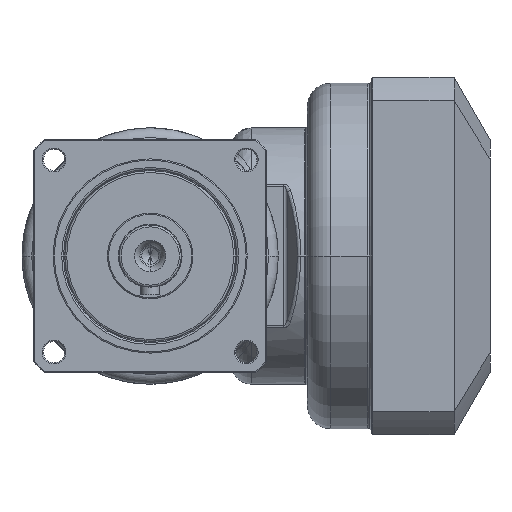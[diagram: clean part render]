
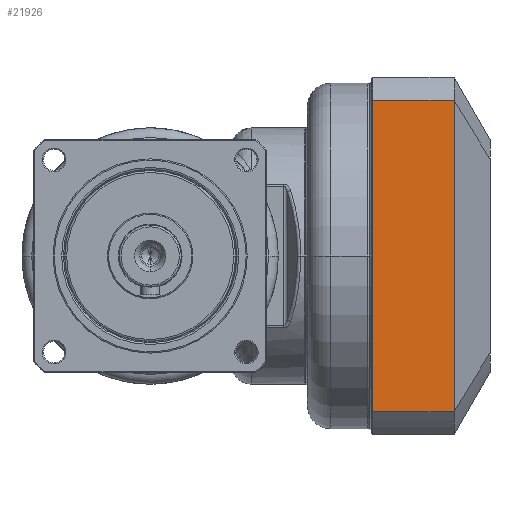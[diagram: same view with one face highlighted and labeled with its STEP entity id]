
A CAD part, left-side view. The second image highlights one B-rep face of the part: STEP entity #21926.
In plain terms, the highlighted planar face has unit normal (-1, 0, 0) as drawn and (0, -1, 0) by its records, which use the part's own axes.
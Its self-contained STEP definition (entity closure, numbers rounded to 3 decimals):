
#20689=DIRECTION('',(1.,0.,0.));
#20690=VECTOR('',#20689,80.125);
#20691=CARTESIAN_POINT('',(-40.062,-46.,23.762));
#20692=LINE('',#20691,#20690);
#20693=DIRECTION('',(0.,0.,1.));
#20694=VECTOR('',#20693,20.962);
#20695=CARTESIAN_POINT('',(40.062,-46.,
2.8));
#20696=LINE('',#20695,#20694);
#20697=DIRECTION('',(1.,0.,0.));
#20698=VECTOR('',#20697,80.125);
#20699=CARTESIAN_POINT('',(-40.062,-46.,
2.8));
#20700=LINE('',#20699,#20698);
#20701=DIRECTION('',(0.,0.,1.));
#20702=VECTOR('',#20701,20.962);
#20703=CARTESIAN_POINT('',(-40.062,-46.,
2.8));
#20704=LINE('',#20703,#20702);
#20710=CARTESIAN_POINT('',(40.062,-46.,23.762));
#21025=CARTESIAN_POINT('',(-40.062,-46.,2.8));
#21027=VERTEX_POINT('',#21025);
#21030=CARTESIAN_POINT('',(40.062,-46.,
2.8));
#21031=VERTEX_POINT('',#21030);
#21077=CARTESIAN_POINT('',(-40.062,-46.,23.762));
#21079=VERTEX_POINT('',#21077);
#21087=VERTEX_POINT('',#20710);
#21914=CARTESIAN_POINT('',(-46.,-46.,0.));
#21915=DIRECTION('',(0.,-1.,0.));
#21916=DIRECTION('',(1.,0.,0.));
#21917=AXIS2_PLACEMENT_3D('',#21914,#21915,#21916);
#21918=PLANE('',#21917);
#21920=ORIENTED_EDGE('',*,*,#21919,.T.);
#21921=ORIENTED_EDGE('',*,*,#21830,.F.);
#21922=ORIENTED_EDGE('',*,*,#21908,.F.);
#21923=ORIENTED_EDGE('',*,*,#21841,.T.);
#21924=EDGE_LOOP('',(#21920,#21921,#21922,#21923));
#21925=FACE_OUTER_BOUND('',#21924,.F.);
#21926=ADVANCED_FACE('',(#21925),#21918,.T.);
#21830=EDGE_CURVE('',#21031,#21087,#20696,.T.);
#21841=EDGE_CURVE('',#21027,#21079,#20704,.T.);
#21908=EDGE_CURVE('',#21027,#21031,#20700,.T.);
#21919=EDGE_CURVE('',#21079,#21087,#20692,.T.);
